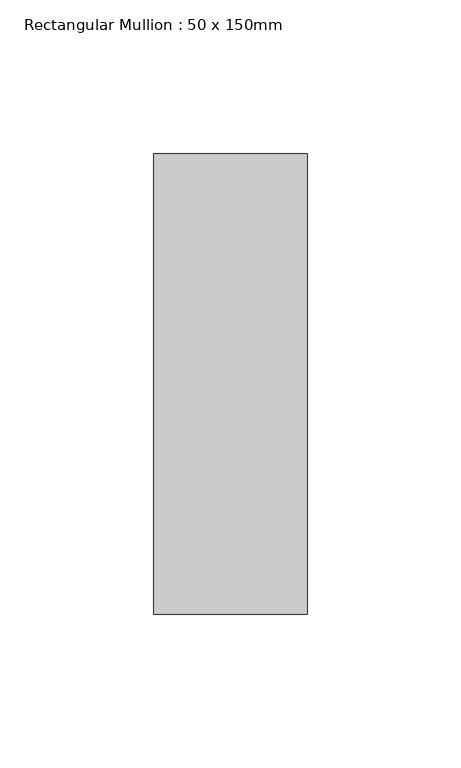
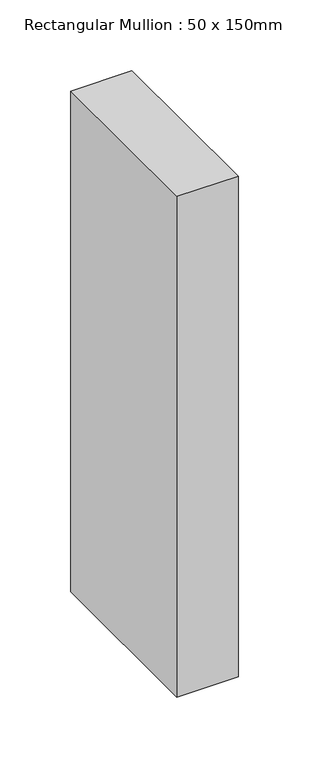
"""IFC4 building model written with IfcOpenShell, lengths in millimetres: member geometry, Rectangular Mullion : 50 x 150mm."""

import ifcopenshell
import ifcopenshell.guid

model = None  # the IFC model being written
_history = None  # IfcOwnerHistory: only IFC2X3 demands one
_inside = {}  # id of a spatial element -> (the spatial element, [elements in it])
_under = {}  # id of a project, library or spatial element -> (it, [spatial elements below it])
_declared = {}  # id of a project -> (the project, [libraries it declares])
_typed = {}  # id of a type object -> (the type object, [elements of that type])
_made_of = {}  # id of a material, layer set ... -> (it, [elements and type objects made of it])


def new_model(schema):
    """Start an empty IFC model of exactly this schema.

    Asked for "IFC4X3", IfcOpenShell would pick the latest addendum, in which some entities
    have other attributes; the version numbers below select the first issue.
    IFC2X3 requires an IfcOwnerHistory on every rooted entity: one is made here for all.
    """
    global model, _history
    if schema == "IFC4X3":
        model = ifcopenshell.file(schema_version=(4, 3, 0, 0))
    else:
        model = ifcopenshell.file(schema=schema)
    _inside.clear()
    _under.clear()
    _declared.clear()
    _typed.clear()
    _made_of.clear()
    _history = None
    if model.schema == "IFC2X3":
        org = make("IfcOrganization", Name="unknown")
        user = make(
            "IfcPersonAndOrganization",
            ThePerson=make("IfcPerson", FamilyName="unknown"),
            TheOrganization=org,
        )
        app = make(
            "IfcApplication",
            ApplicationDeveloper=org,
            Version="unknown",
            ApplicationFullName="unknown",
            ApplicationIdentifier="unknown",
        )
        _history = make(
            "IfcOwnerHistory",
            OwningUser=user,
            OwningApplication=app,
            ChangeAction="ADDED",
            CreationDate=0,
        )
    return model


def make(cls, **values):
    """One entity of the class cls with the attributes given. An attribute that is None is left unset."""
    return model.create_entity(
        cls, **{name: value for name, value in values.items() if value is not None}
    )


def rooted(cls, **values):
    """An entity with a GlobalId (a new one), such as an element, a storey or a relation."""
    return make(cls, GlobalId=ifcopenshell.guid.new(), OwnerHistory=_history, **values)


def si_unit(unit_type, name, prefix=None):
    """IfcSIUnit, for example si_unit("LENGTHUNIT", "METRE", prefix="MILLI")."""
    return make("IfcSIUnit", UnitType=unit_type, Prefix=prefix, Name=name)


def assignment(units):
    """IfcUnitAssignment: the units of a project."""
    return None if units is None else make("IfcUnitAssignment", Units=units)


def point(xyz):
    """IfcCartesianPoint."""
    return None if xyz is None else make("IfcCartesianPoint", Coordinates=xyz)


def direction(xyz):
    """IfcDirection."""
    return None if xyz is None else make("IfcDirection", DirectionRatios=xyz)


def frame(location, z_axis=None, x_axis=None):
    """IfcAxis2Placement3D, a coordinate frame: its origin and axes. An axis left out is left unset."""
    return make(
        "IfcAxis2Placement3D",
        Location=point(location),
        Axis=direction(z_axis),
        RefDirection=direction(x_axis),
    )


def origin():
    """The frame at (0, 0, 0) with its axes left unset."""
    return frame((0.0, 0.0, 0.0))


def place(relative_to, where):
    """IfcLocalPlacement: puts the frame where relative to a parent placement (None: the world)."""
    return make(
        "IfcLocalPlacement", PlacementRelTo=relative_to, RelativePlacement=where
    )


def context(
    kind, dimensions, precision=None, world=None, true_north=None, identifier=None
):
    """IfcGeometricRepresentationContext, for example the 3D "Model" context."""
    return make(
        "IfcGeometricRepresentationContext",
        ContextIdentifier=identifier,
        ContextType=kind,
        CoordinateSpaceDimension=dimensions,
        Precision=precision,
        WorldCoordinateSystem=world,
        TrueNorth=true_north,
    )


def project(units=None, contexts=None):
    """IfcProject with its units and contexts."""
    return rooted(
        "IfcProject",
        Name="project",
        RepresentationContexts=contexts,
        UnitsInContext=assignment(units),
    )


def spatial(cls, under=None, at=None, **own):
    """A site, building, storey or space (cls), placed at a placement, below another one or the project."""
    s = rooted(cls, ObjectPlacement=at, **own)
    if under is not None:
        _under.setdefault(under.id(), (under, []))[1].append(s)
    return s


def polyline(points):
    """IfcPolyline through the points."""
    return make("IfcPolyline", Points=[point(p) for p in points])


def outline(outer, holes=None, kind="AREA"):
    """IfcArbitraryClosedProfileDef: a profile drawn as a closed curve; with holes, ...WithVoids."""
    if holes is None:
        return make("IfcArbitraryClosedProfileDef", ProfileType=kind, OuterCurve=outer)
    return make(
        "IfcArbitraryProfileDefWithVoids",
        ProfileType=kind,
        OuterCurve=outer,
        InnerCurves=holes,
    )


def extrude(swept, where, along, depth):
    """IfcExtrudedAreaSolid: the profile swept, set in the frame where, extruded along a direction by depth."""
    return make(
        "IfcExtrudedAreaSolid",
        SweptArea=swept,
        Position=where,
        ExtrudedDirection=direction(along),
        Depth=depth,
    )


def shape(context_of_items, identifier, shape_type, items):
    """IfcShapeRepresentation: the items that make up one representation, for example the "Body"."""
    return make(
        "IfcShapeRepresentation",
        ContextOfItems=context_of_items,
        RepresentationIdentifier=identifier,
        RepresentationType=shape_type,
        Items=items,
    )


def source(mapping_origin, context_of_items, identifier, shape_type, items):
    """IfcRepresentationMap: a shape defined once, which mapped items show again and again."""
    return make(
        "IfcRepresentationMap",
        MappingOrigin=mapping_origin,
        MappedRepresentation=shape(context_of_items, identifier, shape_type, items),
    )


def transform(
    local_origin,
    x_axis=None,
    y_axis=None,
    z_axis=None,
    scale=None,
    scale2=None,
    scale3=None,
    uniform=True,
):
    """IfcCartesianTransformationOperator3D, or its non-uniform kind. x_axis, y_axis, z_axis: its Axis1, 2, 3."""
    if uniform:
        return make(
            "IfcCartesianTransformationOperator3D",
            Axis1=direction(x_axis),
            Axis2=direction(y_axis),
            LocalOrigin=point(local_origin),
            Scale=scale,
            Axis3=direction(z_axis),
        )
    return make(
        "IfcCartesianTransformationOperator3DnonUniform",
        Axis1=direction(x_axis),
        Axis2=direction(y_axis),
        LocalOrigin=point(local_origin),
        Scale=scale,
        Axis3=direction(z_axis),
        Scale2=scale2,
        Scale3=scale3,
    )


def mapped(mapping_source, mapping_target):
    """IfcMappedItem: shows the shape of a source again, moved by a transform."""
    return make(
        "IfcMappedItem", MappingSource=mapping_source, MappingTarget=mapping_target
    )


def made_of(thing, what):
    """Note that an element or type object is made of a material, layer set ...; save() writes the relation."""
    if what is not None:
        _made_of.setdefault(what.id(), (what, []))[1].append(thing)
    return thing


def element(
    cls,
    number,
    at=None,
    inside=None,
    cuts=None,
    type_object=None,
    material=None,
    context=None,
    identifier="Body",
    shape_type=None,
    held_by="IfcProductDefinitionShape",
    body=None,
    shapes=None,
    **own,
):
    """One element of the class cls, such as IfcWall. Its Tag is "e" and its number.

    at: its placement. inside: the storey or other place that contains it. cuts: it is an
    opening in that element (IfcRelVoidsElement). A single representation is given by context,
    identifier, shape_type and body (its items); several are given by shapes. held_by: the class
    of the entity that holds the representations. save() writes the other relations.
    """
    e = rooted(cls, Tag="e%d" % number, ObjectPlacement=at, **own)
    if body is not None:
        shapes = [shape(context, identifier, shape_type, body)]
    if shapes is not None:
        e.Representation = make(held_by, Representations=shapes)
    if inside is not None:
        _inside.setdefault(inside.id(), (inside, []))[1].append(e)
    if cuts is not None:
        rooted(
            "IfcRelVoidsElement", RelatingBuildingElement=cuts, RelatedOpeningElement=e
        )
    if type_object is not None:
        _typed.setdefault(type_object.id(), (type_object, []))[1].append(e)
    return made_of(e, material)


def aggregate(whole, parts):
    """IfcRelAggregates: a whole, such as a stair, and the parts it consists of."""
    return rooted("IfcRelAggregates", RelatingObject=whole, RelatedObjects=parts)


def save(model, path):
    """Write the relations noted so far, then the file.

    IfcRelAggregates (storeys below a building ...), IfcRelContainedInSpatialStructure (elements
    in a storey), IfcRelDefinesByType, IfcRelAssociatesMaterial and IfcRelDeclares: one each for
    every whole, place, type object, material and project.
    """
    for whole, parts in _under.values():
        aggregate(whole, parts)
    for where, things in _inside.values():
        rooted(
            "IfcRelContainedInSpatialStructure",
            RelatedElements=things,
            RelatingStructure=where,
        )
    for kind, things in _typed.values():
        rooted("IfcRelDefinesByType", RelatedObjects=things, RelatingType=kind)
    for what, things in _made_of.values():
        rooted("IfcRelAssociatesMaterial", RelatedObjects=things, RelatingMaterial=what)
    for by, libraries in _declared.values():
        rooted("IfcRelDeclares", RelatingContext=by, RelatedDefinitions=libraries)
    model.write(path)


def rectangular_mullion_50_x_150mm_a0320c88(model_context):
    return source(origin(), model_context, "Body", "SweptSolid", [
        extrude(outline(polyline([(0.0, 75.0), (0.0, -75.0), (-50.0, -75.0), (-50.0, 75.0), (0.0, 75.0)])), frame((0.0, 0.0, -432.2), z_axis=(0.0, 0.0, 1.0), x_axis=(1.0, 0.0, 0.0)), (0.0, 0.0, 1.0), 432.2),
    ])


if __name__ == "__main__":
    model = new_model("IFC4")
    model_context = context("Model", 3, world=origin())
    ifc_project = project(units=[si_unit("LENGTHUNIT", "METRE", prefix="MILLI")], contexts=[model_context])
    site = spatial("IfcSite", under=ifc_project)
    building = spatial("IfcBuilding", under=site)
    placement = place(None, origin())
    rectangular_mullion_50_x_150mm_shape = rectangular_mullion_50_x_150mm_a0320c88(model_context)
    element("IfcMember", 1, ObjectType="Rectangular Mullion : 50 x 150mm", at=placement, inside=building, context=model_context, shape_type="MappedRepresentation", body=[
        mapped(rectangular_mullion_50_x_150mm_shape, transform((0.0, 0.0, 0.0), x_axis=(1.0, 0.0, 0.0), y_axis=(0.0, 1.0, 0.0), z_axis=(0.0, 0.0, 1.0))),
    ])
    save(model, "model.ifc")
